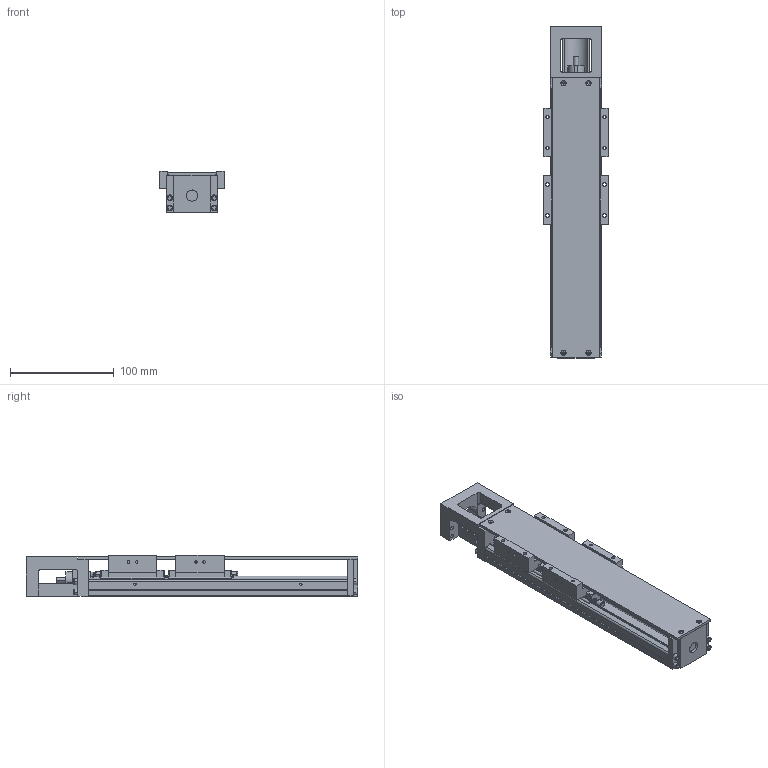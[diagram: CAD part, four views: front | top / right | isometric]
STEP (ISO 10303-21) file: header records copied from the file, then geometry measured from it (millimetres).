
FILE_DESCRIPTION(('no description'),'unknown implementation level');
FILE_NAME('KK5002P250A2F0C00_FILE_22.stp',' ',('HIWIN GmbH'),('CADClick - KiM GmbH - www.kimweb.de'),'unknown preprocess','ACIS','unknown authorization');
FILE_SCHEMA(('automotive_design'));
Length unit declared in the file: millimetre
Products named in the file (3): KK5002P250A2F0C00_FILE_1; KK50_FILE; KK5002P250A2F0C00_FILE
Bounding box: 62 x 320 x 40 mm (x, y, z)
Volume: 357796.2 mm3; surface area: 136521.2 mm2
Topology: 3 solids, 19 shells, 1203 faces, 3068 edges, 1943 vertices
Faces by surface type: plane 722, cylinder 335, cone 94, torus 52
Entity records: 71373 total; most frequent: CARTESIAN_POINT 7133, DIRECTION 6324, STYLED_ITEM 6171, PRESENTATION_STYLE_ASSIGNMENT 6171, COLOUR_RGB 6171, ORIENTED_EDGE 6044, EDGE_CURVE 3022, CURVE_STYLE 3022
